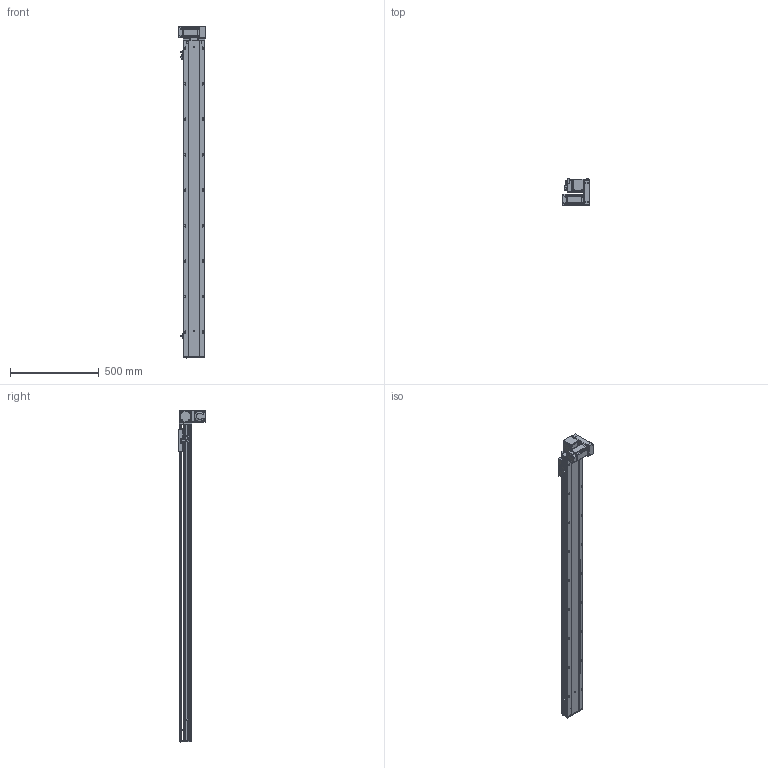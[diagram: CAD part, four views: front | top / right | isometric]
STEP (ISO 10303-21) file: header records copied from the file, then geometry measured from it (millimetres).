
FILE_DESCRIPTION (( 'STEP AP203' ), '1' );
FILE_NAME ('RY120-T-300-DR.SLDASM_1550.step', '2021-03-01T03:36:39', ( '盈信电脑' ), ( '东莞市道滘镇水果街19号' ), 'SwSTEP 2.0', 'SolidWorks 2012', '' );
FILE_SCHEMA (( 'CONFIG_CONTROL_DESIGN' ));
Length unit declared in the file: millimetre
Products named in the file (17): RY120-T-300-DR.SLDASM_1550; RY120-T蹟翐M4; RY120-T萇儂欶; RY120-T主同步轮轴承压盖; 15; 滅袉蝶18-10; RY120-T翋肮祭謫裔啣; RY120-T萇儂假蚾啣; RY120外置感应片(140共用）; RY120-T肮祭湍揤踡輸2; RY120-T肮祭湍揤踡輸1; RY120-T翋肮祭盓傅釱; RY120肮祭湍臏賑輸; 覜茼ん672; RY120-T-300-DR倰第奻裔啣_1550; RY120綴裔啣; RY120-T-300-DR倰第菁釱_1550
Assembly tree (22 placements, depth 2):
  RY120-T-300-DR.SLDASM_1550
    RY120-T-300-DR倰第菁釱_1550
    RY120-T-300-DR倰第奻裔啣_1550
    RY120肮祭湍臏賑輸
    RY120綴裔啣
    覜茼ん672  x3
    RY120外置感应片(140共用）
    RY120-T肮祭湍揤踡輸1
    RY120-T肮祭湍揤踡輸2
    RY120-T翋肮祭盓傅釱
    滅袉蝶18-10  x2
    RY120-T翋肮祭謫裔啣
    15
    RY120-T萇儂假蚾啣
    RY120-T蹟翐M4  x4
    RY120-T萇儂欶
    RY120-T主同步轮轴承压盖
Bounding box: 155.5 x 150 x 1871 mm (x, y, z)
Volume: 4821813.3 mm3; surface area: 1827613.1 mm2
Topology: 23 solids, 23 shells, 2972 faces, 8116 edges, 5184 vertices
Faces by surface type: plane 1432, cylinder 1160, cone 291, bspline 89
Entity records: 95033 total; most frequent: CARTESIAN_POINT 24490, ORIENTED_EDGE 14584, DIRECTION 13786, EDGE_CURVE 7292, VERTEX_POINT 4771, AXIS2_PLACEMENT_3D 4655, VECTOR 4476, LINE 4476
